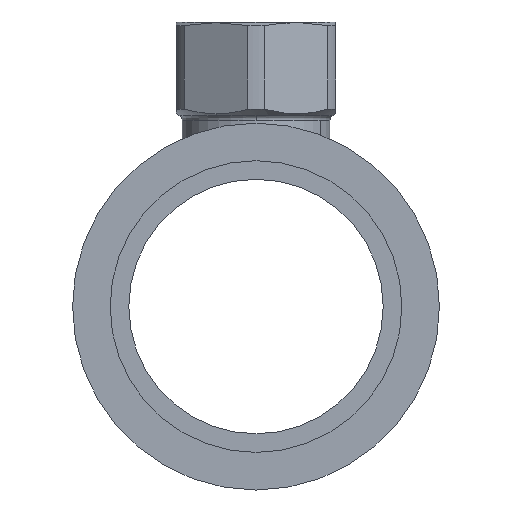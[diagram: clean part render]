
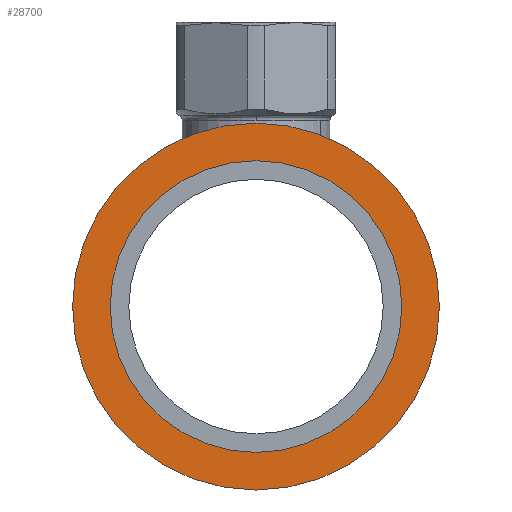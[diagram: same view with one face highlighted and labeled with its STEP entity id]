
A CAD part, left-side view. The second image highlights one B-rep face of the part: STEP entity #28700.
In plain terms, the highlighted planar face has unit normal (-1, 0, 0).
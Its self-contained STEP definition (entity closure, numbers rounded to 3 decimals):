
#28220=CARTESIAN_POINT('',(18.834,89.479,0.)
);
#28230=VERTEX_POINT('',#28220);
#28310=CARTESIAN_POINT('',(18.834,40.179,0.))
;
#28320=VERTEX_POINT('',#28310);
#28350=CARTESIAN_POINT('',(18.834,64.829,0.))
;
#28360=DIRECTION('',(1.,0.,0.));
#28370=DIRECTION('',(0.,1.,0.));
#28380=AXIS2_PLACEMENT_3D('',#28350,#28360,#28370);
#28390=CIRCLE('',#28380,24.65);
#28400=EDGE_CURVE('',#28320,#28230,#28390,.T.);
#28450=CARTESIAN_POINT('',(18.834,94.129,0.)
);
#28460=DIRECTION('',(1.,-0.,0.));
#28470=DIRECTION('',(0.,1.,0.));
#28480=AXIS2_PLACEMENT_3D('',#28450,#28460,#28470);
#28490=PLANE('',#28480);
#28500=EDGE_CURVE('',#28230,#28320,#28390,.T.);
#28510=ORIENTED_EDGE('',*,*,#28500,.T.);
#28520=ORIENTED_EDGE('',*,*,#28400,.T.);
#28530=EDGE_LOOP('',(#28520,#28510));
#28540=FACE_BOUND('',#28530,.T.);
#28550=CARTESIAN_POINT('',(18.834,64.829,0.))
;
#28560=DIRECTION('',(1.,0.,0.));
#28570=DIRECTION('',(0.,-1.,0.));
#28580=AXIS2_PLACEMENT_3D('',#28550,#28560,#28570);
#28590=CIRCLE('',#28580,31.);
#28600=CARTESIAN_POINT('',(18.834,33.829,
0.));
#28610=VERTEX_POINT('',#28600);
#28620=CARTESIAN_POINT('',(18.834,95.829,
0.));
#28630=VERTEX_POINT('',#28620);
#28640=EDGE_CURVE('',#28610,#28630,#28590,.T.);
#28650=ORIENTED_EDGE('',*,*,#28640,.F.);
#28660=EDGE_CURVE('',#28630,#28610,#28590,.T.);
#28670=ORIENTED_EDGE('',*,*,#28660,.F.);
#28680=EDGE_LOOP('',(#28670,#28650));
#28690=FACE_OUTER_BOUND('',#28680,.T.);
#28700=ADVANCED_FACE('',(#28540,#28690),#28490,.F.);
